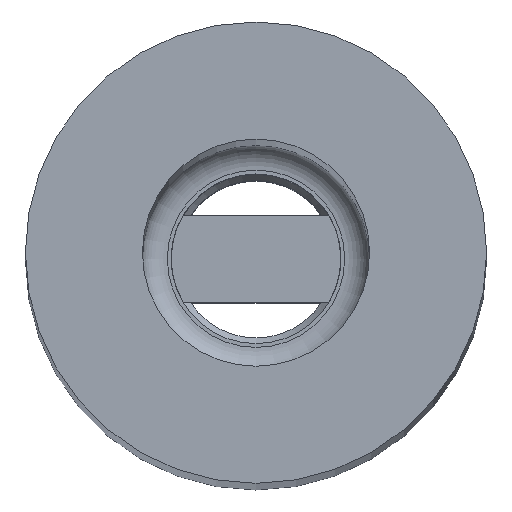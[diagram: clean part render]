
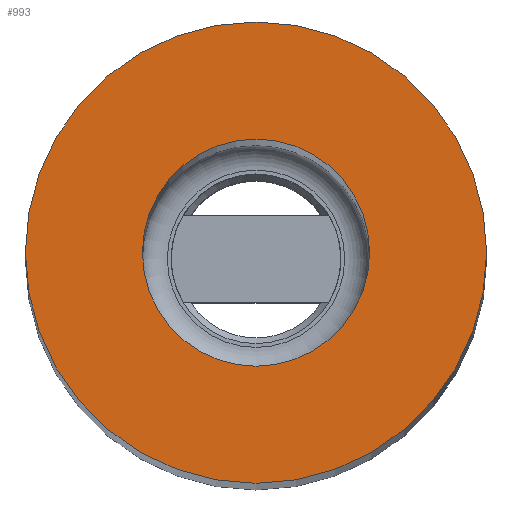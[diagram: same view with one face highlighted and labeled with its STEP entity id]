
A CAD part, top view. The second image highlights one B-rep face of the part: STEP entity #993.
In plain terms, the highlighted planar face has unit normal (0, 0, 1).
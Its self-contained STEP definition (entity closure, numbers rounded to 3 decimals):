
#44=FACE_BOUND('',#161,.T.);
#50=PLANE('',#1079);
#103=FACE_OUTER_BOUND('',#160,.T.);
#160=EDGE_LOOP('',(#812));
#161=EDGE_LOOP('',(#813));
#190=CIRCLE('',#1044,3.25);
#204=CIRCLE('',#1077,6.599);
#400=VERTEX_POINT('',#1891);
#459=VERTEX_POINT('',#3592);
#504=EDGE_CURVE('',#400,#400,#190,.T.);
#593=EDGE_CURVE('',#459,#459,#204,.F.);
#812=ORIENTED_EDGE('',*,*,#593,.T.);
#813=ORIENTED_EDGE('',*,*,#504,.T.);
#993=ADVANCED_FACE('',(#103,#44),#50,.T.);
#1044=AXIS2_PLACEMENT_3D('',#1892,#1142,#1143);
#1077=AXIS2_PLACEMENT_3D('',#3593,#1238,#1239);
#1079=AXIS2_PLACEMENT_3D('',#3597,#1243,#1244);
#1142=DIRECTION('center_axis',(0.,0.,-1.));
#1143=DIRECTION('ref_axis',(1.,0.,0.));
#1238=DIRECTION('center_axis',(0.,0.,-1.));
#1239=DIRECTION('ref_axis',(1.,0.,0.));
#1243=DIRECTION('center_axis',(0.,0.,1.));
#1244=DIRECTION('ref_axis',(1.,0.,0.));
#1891=CARTESIAN_POINT('',(-3.25,0.,117.3));
#1892=CARTESIAN_POINT('Origin',(0.,0.,117.3));
#3592=CARTESIAN_POINT('',(-6.599,0.,117.3));
#3593=CARTESIAN_POINT('Origin',(0.,0.,117.3));
#3597=CARTESIAN_POINT('Origin',(0.,0.,117.3));
